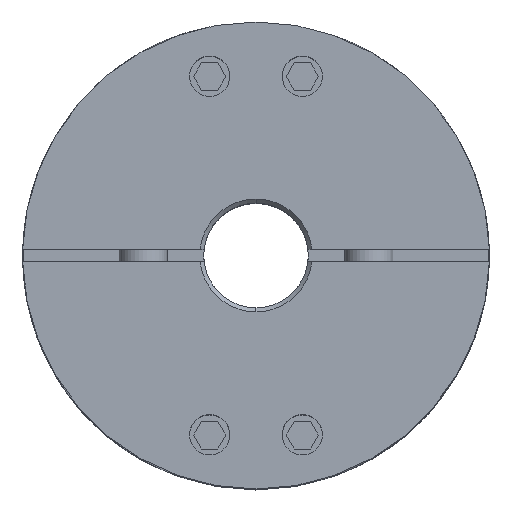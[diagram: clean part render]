
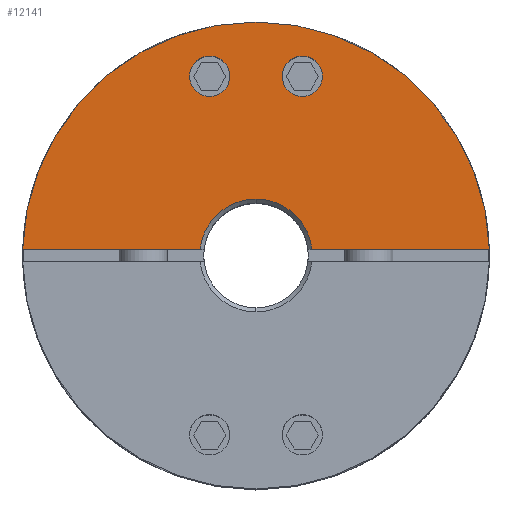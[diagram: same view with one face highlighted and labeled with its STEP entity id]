
A CAD part, top view. The second image highlights one B-rep face of the part: STEP entity #12141.
In plain terms, the highlighted planar face has unit normal (0, 0, 1).
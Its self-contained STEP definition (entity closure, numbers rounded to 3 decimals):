
#4721=CARTESIAN_POINT('',(5.759,24.767,35.75));
#4722=VERTEX_POINT('',#4721);
#4731=CARTESIAN_POINT('',(5.759,19.767,35.75));
#4732=VERTEX_POINT('',#4731);
#4733=CARTESIAN_POINT('',(5.759,22.267,35.75));
#4734=DIRECTION('',(0.0,0.0,-1.0));
#4735=DIRECTION('',(0.0,1.0,0.0));
#4736=AXIS2_PLACEMENT_3D('',#4733,#4734,#4735);
#4737=CIRCLE('',#4736,2.5);
#4738=EDGE_CURVE('',#4732,#4722,#4737,.T.);
#4763=CARTESIAN_POINT('',(-5.759,24.767,35.75));
#4764=VERTEX_POINT('',#4763);
#4773=CARTESIAN_POINT('',(-5.759,19.767,35.75));
#4774=VERTEX_POINT('',#4773);
#4775=CARTESIAN_POINT('',(-5.759,22.267,35.75));
#4776=DIRECTION('',(0.0,0.0,-1.0));
#4777=DIRECTION('',(0.0,1.0,0.0));
#4778=AXIS2_PLACEMENT_3D('',#4775,#4776,#4777);
#4779=CIRCLE('',#4778,2.5);
#4780=EDGE_CURVE('',#4774,#4764,#4779,.T.);
#5017=CARTESIAN_POINT('',(0.,29.0,35.75));
#5018=VERTEX_POINT('',#5017);
#5166=CARTESIAN_POINT('',(-28.99,0.75,35.75));
#5167=VERTEX_POINT('',#5166);
#5174=CARTESIAN_POINT('',(0.,0.0,35.75));
#5175=DIRECTION('',(0.0,0.0,-1.0));
#5176=DIRECTION('',(0.0,1.0,0.0));
#5177=AXIS2_PLACEMENT_3D('',#5174,#5175,#5176);
#5178=CIRCLE('',#5177,29.0);
#5179=EDGE_CURVE('',#5167,#5018,#5178,.T.);
#5351=CARTESIAN_POINT('',(0.,7.0,35.75));
#5352=VERTEX_POINT('',#5351);
#5368=CARTESIAN_POINT('',(6.96,0.75,35.75));
#5369=VERTEX_POINT('',#5368);
#5383=CARTESIAN_POINT('',(0.,0.0,35.75));
#5384=DIRECTION('',(0.0,0.0,1.0));
#5385=DIRECTION('',(0.0,1.0,0.0));
#5386=AXIS2_PLACEMENT_3D('',#5383,#5384,#5385);
#5387=CIRCLE('',#5386,7.0);
#5388=EDGE_CURVE('',#5369,#5352,#5387,.T.);
#11647=CARTESIAN_POINT('',(-6.96,0.75,35.75));
#11648=VERTEX_POINT('',#11647);
#11649=CARTESIAN_POINT('',(0.,0.0,35.75));
#11650=DIRECTION('',(0.0,0.0,1.0));
#11651=DIRECTION('',(0.0,1.0,0.0));
#11652=AXIS2_PLACEMENT_3D('',#11649,#11650,#11651);
#11653=CIRCLE('',#11652,7.0);
#11654=EDGE_CURVE('',#5352,#11648,#11653,.T.);
#11679=CARTESIAN_POINT('',(-28.99,0.75,35.75));
#11680=DIRECTION('',(1.0,0.0,0.0));
#11681=VECTOR('',#11680,22.031);
#11682=LINE('',#11679,#11681);
#11683=EDGE_CURVE('',#5167,#11648,#11682,.T.);
#11715=CARTESIAN_POINT('',(28.99,0.75,35.75));
#11716=VERTEX_POINT('',#11715);
#11723=CARTESIAN_POINT('',(6.96,0.75,35.75));
#11724=DIRECTION('',(1.0,0.0,0.0));
#11725=VECTOR('',#11724,22.031);
#11726=LINE('',#11723,#11725);
#11727=EDGE_CURVE('',#5369,#11716,#11726,.T.);
#11842=CARTESIAN_POINT('',(0.,0.0,35.75));
#11843=DIRECTION('',(0.0,0.0,-1.0));
#11844=DIRECTION('',(0.0,1.0,0.0));
#11845=AXIS2_PLACEMENT_3D('',#11842,#11843,#11844);
#11846=CIRCLE('',#11845,29.0);
#11847=EDGE_CURVE('',#5018,#11716,#11846,.T.);
#12080=CARTESIAN_POINT('',(-5.759,22.267,35.75));
#12081=DIRECTION('',(0.0,0.0,-1.0));
#12082=DIRECTION('',(0.0,1.0,0.0));
#12083=AXIS2_PLACEMENT_3D('',#12080,#12081,#12082);
#12084=CIRCLE('',#12083,2.5);
#12085=EDGE_CURVE('',#4764,#4774,#12084,.T.);
#12098=CARTESIAN_POINT('',(5.759,22.267,35.75));
#12099=DIRECTION('',(0.0,0.0,-1.0));
#12100=DIRECTION('',(0.0,1.0,0.0));
#12101=AXIS2_PLACEMENT_3D('',#12098,#12099,#12100);
#12102=CIRCLE('',#12101,2.5);
#12103=EDGE_CURVE('',#4722,#4732,#12102,.T.);
#12120=CARTESIAN_POINT('',(0.,2.636,35.75));
#12121=DIRECTION('',(0.0,0.0,1.0));
#12122=DIRECTION('',(0.0,1.0,0.0));
#12123=AXIS2_PLACEMENT_3D('',#12120,#12121,#12122);
#12124=PLANE('',#12123);
#12125=ORIENTED_EDGE('',*,*,#5388,.F.);
#12126=ORIENTED_EDGE('',*,*,#11727,.T.);
#12127=ORIENTED_EDGE('',*,*,#11847,.F.);
#12128=ORIENTED_EDGE('',*,*,#5179,.F.);
#12129=ORIENTED_EDGE('',*,*,#11683,.T.);
#12130=ORIENTED_EDGE('',*,*,#11654,.F.);
#12131=EDGE_LOOP('',(#12125,#12126,#12127,#12128,#12129,#12130));
#12132=FACE_OUTER_BOUND('',#12131,.T.);
#12133=ORIENTED_EDGE('',*,*,#12085,.T.);
#12134=ORIENTED_EDGE('',*,*,#4780,.T.);
#12135=EDGE_LOOP('',(#12133,#12134));
#12136=FACE_BOUND('',#12135,.T.);
#12137=ORIENTED_EDGE('',*,*,#12103,.T.);
#12138=ORIENTED_EDGE('',*,*,#4738,.T.);
#12139=EDGE_LOOP('',(#12137,#12138));
#12140=FACE_BOUND('',#12139,.T.);
#12141=ADVANCED_FACE('',(#12132,#12136,#12140),#12124,.T.);
